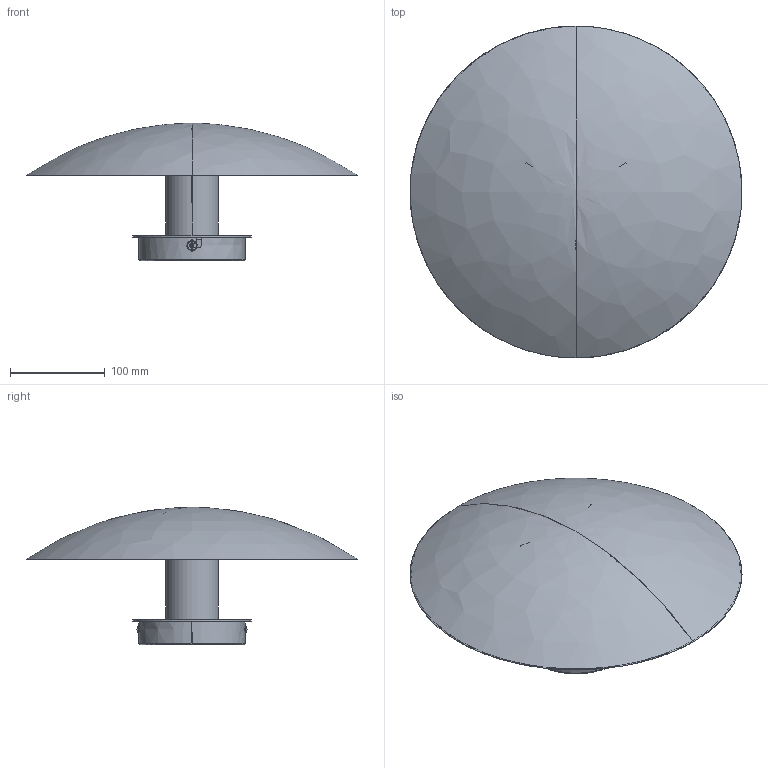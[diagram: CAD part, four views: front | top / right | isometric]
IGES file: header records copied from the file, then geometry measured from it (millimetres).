
Start section: SolidWorks IGES file using analytic representation for surfaces
Global section: file name: C:\SANTACOLE_PDM\Proyectos Catálogo\PROD-P13-032 -- DISCO\6_Técnico comercial\3D\Disco L.IGS; native system: SolidWorks 2019; preprocessor: SolidWorks 2019; author: ana.pascual; date: 200402.162200; units: millimetre
Bounding box: 350 x 350 x 145 mm (x, y, z)
Surface area: 300492.3 mm2 (no closed solid volume)
Topology: 0 solids, 0 shells, 279 faces, 4048 edges, 4044 vertices
Faces by surface type: bspline 187, revolution 92
